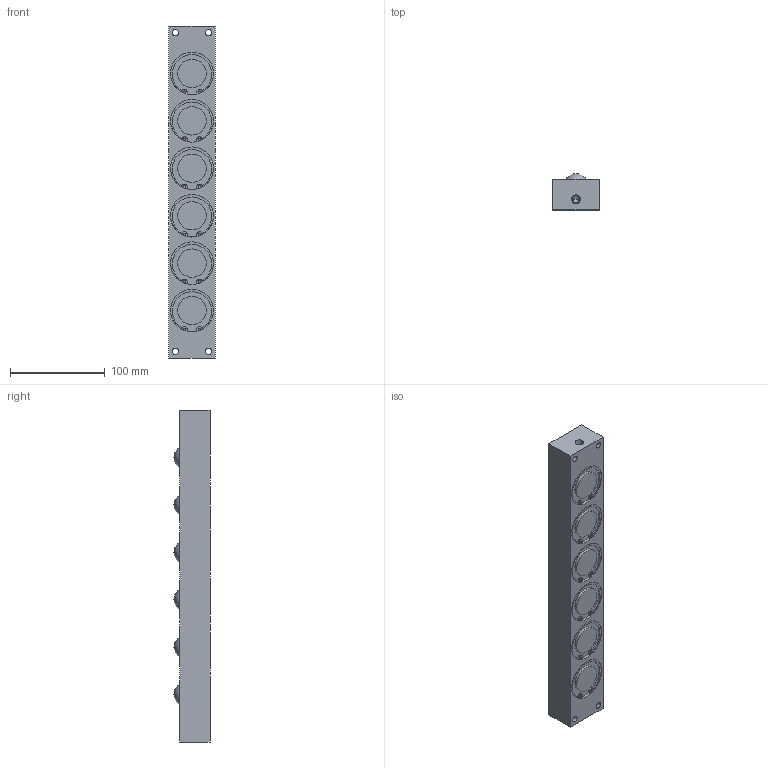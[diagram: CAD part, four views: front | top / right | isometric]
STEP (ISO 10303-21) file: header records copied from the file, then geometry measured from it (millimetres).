
FILE_DESCRIPTION (( 'STEP AP203' ), '1' );
FILE_NAME ('PVL55SL-6.STEP', '2016-01-06T00:34:10', ( '' ), ( '' ), 'SwSTEP 2.0', 'SolidWorks 2013', '' );
FILE_SCHEMA (( 'CONFIG_CONTROL_DESIGN' ));
Length unit declared in the file: millimetre
Products named in the file (1): PVL55SL-6
Bounding box: 49 x 38 x 350 mm (x, y, z)
Volume: 537548.5 mm3; surface area: 78605 mm2
Topology: 1 solids, 1 shells, 267 faces, 658 edges, 439 vertices
Faces by surface type: cylinder 174, plane 77, sphere 12, cone 4
Entity records: 8215 total; most frequent: DIRECTION 1604, CARTESIAN_POINT 1363, ORIENTED_EDGE 1312, AXIS2_PLACEMENT_3D 680, EDGE_CURVE 656, VERTEX_POINT 439, CIRCLE 412, EDGE_LOOP 323
